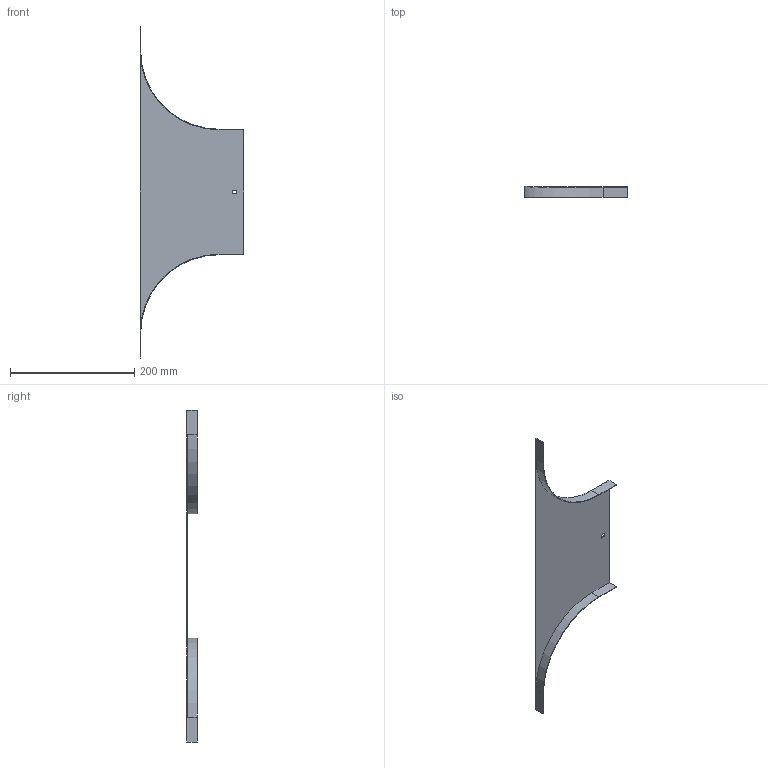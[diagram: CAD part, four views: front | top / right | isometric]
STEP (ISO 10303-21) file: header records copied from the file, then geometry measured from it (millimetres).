
FILE_DESCRIPTION (( 'STEP AP214' ), '1' );
FILE_NAME ('ORL_200.step', '2025-07-16T09:15:49', ( '' ), ( '' ), 'SwSTEP 2.0', 'SolidWorks 2023', '' );
FILE_SCHEMA (( 'AUTOMOTIVE_DESIGN' ));
Length unit declared in the file: millimetre
Products named in the file (1): ORL_200
Bounding box: 167 x 17 x 534 mm (x, y, z)
Volume: 49756.6 mm3; surface area: 100897.1 mm2
Topology: 1 solids, 1 shells, 22 faces, 60 edges, 40 vertices
Faces by surface type: plane 18, cylinder 4
Entity records: 719 total; most frequent: CARTESIAN_POINT 123, ORIENTED_EDGE 120, DIRECTION 114, EDGE_CURVE 60, LINE 52, VECTOR 52, VERTEX_POINT 40, AXIS2_PLACEMENT_3D 31
